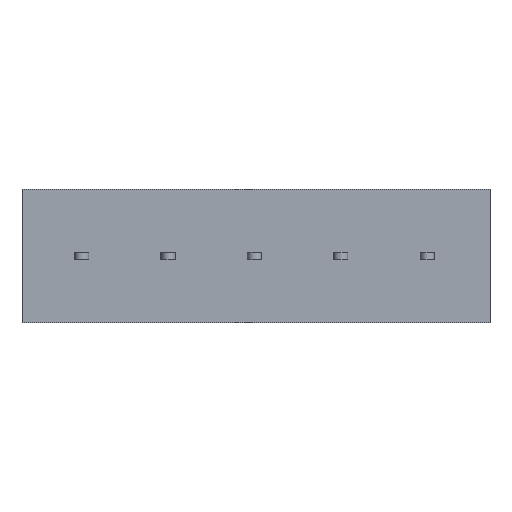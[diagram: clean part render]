
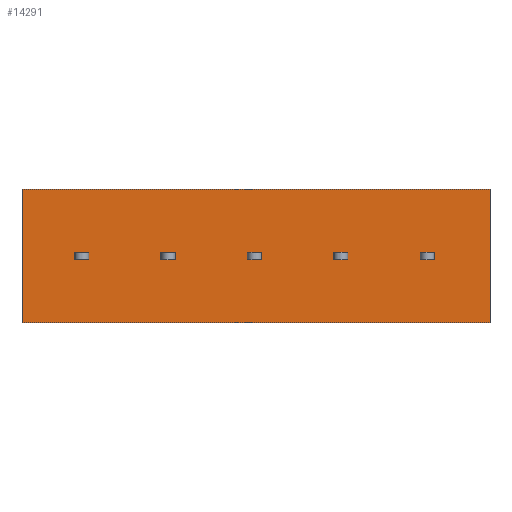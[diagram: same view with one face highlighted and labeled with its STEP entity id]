
A CAD part, front view. The second image highlights one B-rep face of the part: STEP entity #14291.
In plain terms, the highlighted planar face has unit normal (0, -1, 0).
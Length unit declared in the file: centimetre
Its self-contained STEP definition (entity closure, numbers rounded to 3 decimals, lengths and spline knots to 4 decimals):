
#681=VECTOR('',#15031,1.);
#684=VECTOR('',#15037,1.);
#698=VECTOR('',#15068,1.);
#701=VECTOR('',#15076,1.);
#1110=VECTOR('',#15627,1.);
#1217=VECTOR('',#15928,1.);
#1221=VECTOR('',#15933,1.);
#1232=VECTOR('',#15966,1.);
#1234=VECTOR('',#15969,1.);
#1352=VECTOR('',#16283,1.);
#1356=VECTOR('',#16288,1.);
#1367=VECTOR('',#16321,1.);
#1369=VECTOR('',#16324,1.);
#1487=VECTOR('',#16638,1.);
#1491=VECTOR('',#16643,1.);
#1502=VECTOR('',#16676,1.);
#1504=VECTOR('',#16679,1.);
#1622=VECTOR('',#16993,1.);
#1626=VECTOR('',#16998,1.);
#1637=VECTOR('',#17031,1.);
#1639=VECTOR('',#17034,1.);
#2140=VECTOR('',#17792,1.);
#2148=VECTOR('',#17809,1.);
#2149=VECTOR('',#17810,1.);
#2216=LINE('',#18092,#681);
#2219=LINE('',#18101,#684);
#2233=LINE('',#18138,#698);
#2236=LINE('',#18146,#701);
#2645=LINE('',#19660,#1110);
#2752=LINE('',#20048,#1217);
#2756=LINE('',#20057,#1221);
#2767=LINE('',#20092,#1232);
#2769=LINE('',#20096,#1234);
#2887=LINE('',#20497,#1352);
#2891=LINE('',#20506,#1356);
#2902=LINE('',#20541,#1367);
#2904=LINE('',#20545,#1369);
#3022=LINE('',#20946,#1487);
#3026=LINE('',#20955,#1491);
#3037=LINE('',#20990,#1502);
#3039=LINE('',#20994,#1504);
#3157=LINE('',#21395,#1622);
#3161=LINE('',#21404,#1626);
#3172=LINE('',#21439,#1637);
#3174=LINE('',#21443,#1639);
#3675=LINE('',#23196,#2140);
#3683=LINE('',#23221,#2148);
#3684=LINE('',#23222,#2149);
#3773=VERTEX_POINT('',#18093);
#3774=VERTEX_POINT('',#18094);
#3777=VERTEX_POINT('',#18102);
#3789=VERTEX_POINT('',#18139);
#4132=VERTEX_POINT('',#19661);
#4133=VERTEX_POINT('',#19662);
#4258=VERTEX_POINT('',#20049);
#4259=VERTEX_POINT('',#20050);
#4262=VERTEX_POINT('',#20058);
#4273=VERTEX_POINT('',#20093);
#4396=VERTEX_POINT('',#20498);
#4397=VERTEX_POINT('',#20499);
#4400=VERTEX_POINT('',#20507);
#4411=VERTEX_POINT('',#20542);
#4534=VERTEX_POINT('',#20947);
#4535=VERTEX_POINT('',#20948);
#4538=VERTEX_POINT('',#20956);
#4549=VERTEX_POINT('',#20991);
#4672=VERTEX_POINT('',#21396);
#4673=VERTEX_POINT('',#21397);
#4676=VERTEX_POINT('',#21405);
#4687=VERTEX_POINT('',#21440);
#5105=VERTEX_POINT('',#23197);
#5106=VERTEX_POINT('',#23198);
#5506=EDGE_CURVE('',#3773,#3774,#2216,.T.);
#5510=EDGE_CURVE('',#3774,#3777,#2219,.T.);
#5528=EDGE_CURVE('',#3777,#3789,#2233,.T.);
#5532=EDGE_CURVE('',#3789,#3773,#2236,.T.);
#6047=EDGE_CURVE('',#4132,#4133,#2645,.T.);
#6223=EDGE_CURVE('',#4258,#4259,#2752,.T.);
#6227=EDGE_CURVE('',#4262,#4258,#2756,.T.);
#6244=EDGE_CURVE('',#4273,#4262,#2767,.T.);
#6246=EDGE_CURVE('',#4259,#4273,#2769,.T.);
#6429=EDGE_CURVE('',#4396,#4397,#2887,.T.);
#6433=EDGE_CURVE('',#4400,#4396,#2891,.T.);
#6450=EDGE_CURVE('',#4411,#4400,#2902,.T.);
#6452=EDGE_CURVE('',#4397,#4411,#2904,.T.);
#6635=EDGE_CURVE('',#4534,#4535,#3022,.T.);
#6639=EDGE_CURVE('',#4538,#4534,#3026,.T.);
#6656=EDGE_CURVE('',#4549,#4538,#3037,.T.);
#6658=EDGE_CURVE('',#4535,#4549,#3039,.T.);
#6841=EDGE_CURVE('',#4672,#4673,#3157,.T.);
#6845=EDGE_CURVE('',#4676,#4672,#3161,.T.);
#6862=EDGE_CURVE('',#4687,#4676,#3172,.T.);
#6864=EDGE_CURVE('',#4673,#4687,#3174,.T.);
#7504=EDGE_CURVE('',#5105,#5106,#3675,.T.);
#7516=EDGE_CURVE('',#5106,#4132,#3683,.T.);
#7517=EDGE_CURVE('',#4133,#5105,#3684,.T.);
#11666=ORIENTED_EDGE('',*,*,#5528,.F.);
#11667=ORIENTED_EDGE('',*,*,#5510,.F.);
#11668=ORIENTED_EDGE('',*,*,#5506,.F.);
#11669=ORIENTED_EDGE('',*,*,#5532,.F.);
#11670=ORIENTED_EDGE('',*,*,#6227,.T.);
#11671=ORIENTED_EDGE('',*,*,#6223,.T.);
#11672=ORIENTED_EDGE('',*,*,#6246,.T.);
#11673=ORIENTED_EDGE('',*,*,#6244,.T.);
#11674=ORIENTED_EDGE('',*,*,#6433,.T.);
#11675=ORIENTED_EDGE('',*,*,#6429,.T.);
#11676=ORIENTED_EDGE('',*,*,#6452,.T.);
#11677=ORIENTED_EDGE('',*,*,#6450,.T.);
#11678=ORIENTED_EDGE('',*,*,#6639,.T.);
#11679=ORIENTED_EDGE('',*,*,#6635,.T.);
#11680=ORIENTED_EDGE('',*,*,#6658,.T.);
#11681=ORIENTED_EDGE('',*,*,#6656,.T.);
#11682=ORIENTED_EDGE('',*,*,#6845,.T.);
#11683=ORIENTED_EDGE('',*,*,#6841,.T.);
#11684=ORIENTED_EDGE('',*,*,#6864,.T.);
#11685=ORIENTED_EDGE('',*,*,#6862,.T.);
#11686=ORIENTED_EDGE('',*,*,#7504,.T.);
#11687=ORIENTED_EDGE('',*,*,#7516,.T.);
#11688=ORIENTED_EDGE('',*,*,#6047,.T.);
#11689=ORIENTED_EDGE('',*,*,#7517,.T.);
#12635=EDGE_LOOP('',(#11666,#11667,#11668,#11669));
#12636=EDGE_LOOP('',(#11670,#11671,#11672,#11673));
#12637=EDGE_LOOP('',(#11674,#11675,#11676,#11677));
#12638=EDGE_LOOP('',(#11678,#11679,#11680,#11681));
#12639=EDGE_LOOP('',(#11682,#11683,#11684,#11685));
#12640=EDGE_LOOP('',(#11686,#11687,#11688,#11689));
#13503=FACE_BOUND('',#12635,.T.);
#13504=FACE_BOUND('',#12636,.T.);
#13505=FACE_BOUND('',#12637,.T.);
#13506=FACE_BOUND('',#12638,.T.);
#13507=FACE_BOUND('',#12639,.T.);
#13508=FACE_BOUND('',#12640,.T.);
#14291=ADVANCED_FACE('',(#13503,#13504,#13505,#13506,#13507,#13508),#14825,
 .T.);
#14825=PLANE('',#24235);
#15031=DIRECTION('',(-1.,0.,0.));
#15037=DIRECTION('',(0.,0.,-1.));
#15068=DIRECTION('',(1.,0.,0.));
#15076=DIRECTION('',(0.,0.,1.));
#15627=DIRECTION('',(0.,0.,1.));
#15928=DIRECTION('',(0.,0.,1.));
#15933=DIRECTION('',(-1.,0.,0.));
#15966=DIRECTION('',(0.,0.,-1.));
#15969=DIRECTION('',(1.,0.,0.));
#16283=DIRECTION('',(0.,0.,1.));
#16288=DIRECTION('',(-1.,0.,0.));
#16321=DIRECTION('',(0.,0.,-1.));
#16324=DIRECTION('',(1.,0.,0.));
#16638=DIRECTION('',(0.,0.,1.));
#16643=DIRECTION('',(-1.,0.,0.));
#16676=DIRECTION('',(0.,0.,-1.));
#16679=DIRECTION('',(1.,0.,0.));
#16993=DIRECTION('',(0.,0.,1.));
#16998=DIRECTION('',(-1.,0.,0.));
#17031=DIRECTION('',(0.,0.,-1.));
#17034=DIRECTION('',(1.,0.,0.));
#17792=DIRECTION('',(0.,0.,-1.));
#17808=DIRECTION('',(0.,-1.,0.));
#17809=DIRECTION('',(1.,0.,0.));
#17810=DIRECTION('',(-1.,0.,0.));
#18092=CARTESIAN_POINT('',(-0.685,0.,0.05));
#18093=CARTESIAN_POINT('',(-0.38,0.,0.05));
#18094=CARTESIAN_POINT('',(-0.56,0.,0.05));
#18101=CARTESIAN_POINT('',(-0.56,0.,-0.175));
#18102=CARTESIAN_POINT('',(-0.56,0.,-0.05));
#18138=CARTESIAN_POINT('',(-0.685,0.,-0.05));
#18139=CARTESIAN_POINT('',(-0.38,0.,-0.05));
#18146=CARTESIAN_POINT('',(-0.38,0.,-0.175));
#19660=CARTESIAN_POINT('',(4.73,0.,0.85));
#19661=CARTESIAN_POINT('',(4.73,0.,-0.85));
#19662=CARTESIAN_POINT('',(4.73,0.,0.85));
#20048=CARTESIAN_POINT('',(3.84,0.,-0.175));
#20049=CARTESIAN_POINT('',(3.84,0.,-0.05));
#20050=CARTESIAN_POINT('',(3.84,0.,0.05));
#20057=CARTESIAN_POINT('',(1.965,0.,-0.05));
#20058=CARTESIAN_POINT('',(4.02,0.,-0.05));
#20092=CARTESIAN_POINT('',(4.02,0.,-0.175));
#20093=CARTESIAN_POINT('',(4.02,0.,0.05));
#20096=CARTESIAN_POINT('',(1.965,0.,0.05));
#20497=CARTESIAN_POINT('',(2.74,0.,-0.175));
#20498=CARTESIAN_POINT('',(2.74,0.,-0.05));
#20499=CARTESIAN_POINT('',(2.74,0.,0.05));
#20506=CARTESIAN_POINT('',(1.415,0.,-0.05));
#20507=CARTESIAN_POINT('',(2.92,0.,-0.05));
#20541=CARTESIAN_POINT('',(2.92,0.,-0.175));
#20542=CARTESIAN_POINT('',(2.92,0.,0.05));
#20545=CARTESIAN_POINT('',(1.415,0.,0.05));
#20946=CARTESIAN_POINT('',(1.64,0.,-0.175));
#20947=CARTESIAN_POINT('',(1.64,0.,-0.05));
#20948=CARTESIAN_POINT('',(1.64,0.,0.05));
#20955=CARTESIAN_POINT('',(0.865,0.,-0.05));
#20956=CARTESIAN_POINT('',(1.82,0.,-0.05));
#20990=CARTESIAN_POINT('',(1.82,0.,-0.175));
#20991=CARTESIAN_POINT('',(1.82,0.,0.05));
#20994=CARTESIAN_POINT('',(0.865,0.,0.05));
#21395=CARTESIAN_POINT('',(0.54,0.,-0.175));
#21396=CARTESIAN_POINT('',(0.54,0.,-0.05));
#21397=CARTESIAN_POINT('',(0.54,0.,0.05));
#21404=CARTESIAN_POINT('',(0.315,0.,-0.05));
#21405=CARTESIAN_POINT('',(0.72,0.,-0.05));
#21439=CARTESIAN_POINT('',(0.72,0.,-0.175));
#21440=CARTESIAN_POINT('',(0.72,0.,0.05));
#21443=CARTESIAN_POINT('',(0.315,0.,0.05));
#23196=CARTESIAN_POINT('',(-1.23,0.,-0.85));
#23197=CARTESIAN_POINT('',(-1.23,0.,0.85));
#23198=CARTESIAN_POINT('',(-1.23,0.,-0.85));
#23220=CARTESIAN_POINT('',(-1.1,0.,0.));
#23221=CARTESIAN_POINT('',(-1.1,0.,-0.85));
#23222=CARTESIAN_POINT('',(-1.1,0.,0.85));
#24235=AXIS2_PLACEMENT_3D('',#23220,#17808,$);
